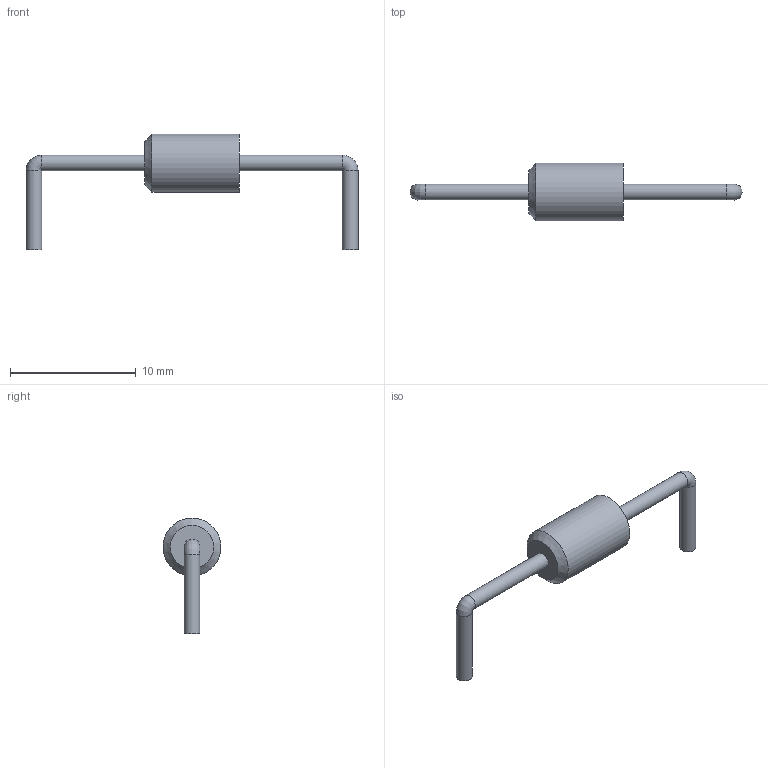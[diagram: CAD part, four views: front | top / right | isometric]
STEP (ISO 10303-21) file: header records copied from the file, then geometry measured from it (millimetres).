
FILE_DESCRIPTION(('FreeCAD Model'),'2;1');
FILE_NAME('/var/www/3D/0T/2403591.1.1.stp','2024-01-16T07:12:22',( 'Author'),(''),'Open CASCADE STEP processor 6.9','FreeCAD','Unknown' );
FILE_SCHEMA(('AUTOMOTIVE_DESIGN { 1 0 10303 214 1 1 1 1 }'));
Length unit declared in the file: millimetre
Products named in the file (4): ASSEMBLY; Body; Sweep1; Sweep2
Assembly tree (3 placements, depth 2):
  ASSEMBLY
    Body
    Sweep1
    Sweep2
Bounding box: 26.35 x 4.6 x 9.2 mm (x, y, z)
Volume: 160.3 mm3; surface area: 262.4 mm2
Topology: 3 solids, 3 shells, 14 faces, 20 edges, 10 vertices
Faces by surface type: plane 6, cylinder 5, cone 1, revolution 1, torus 1
Full cylindrical faces by diameter (mm): 1.25 x4, 4.6 x1
Entity records: 611 total; most frequent: CARTESIAN_POINT 106, DIRECTION 90, ORIENTED_EDGE 36, PCURVE 36, DEFINITIONAL_REPRESENTATION 36, AXIS2_PLACEMENT_3D 30, LINE 25, VECTOR 25
